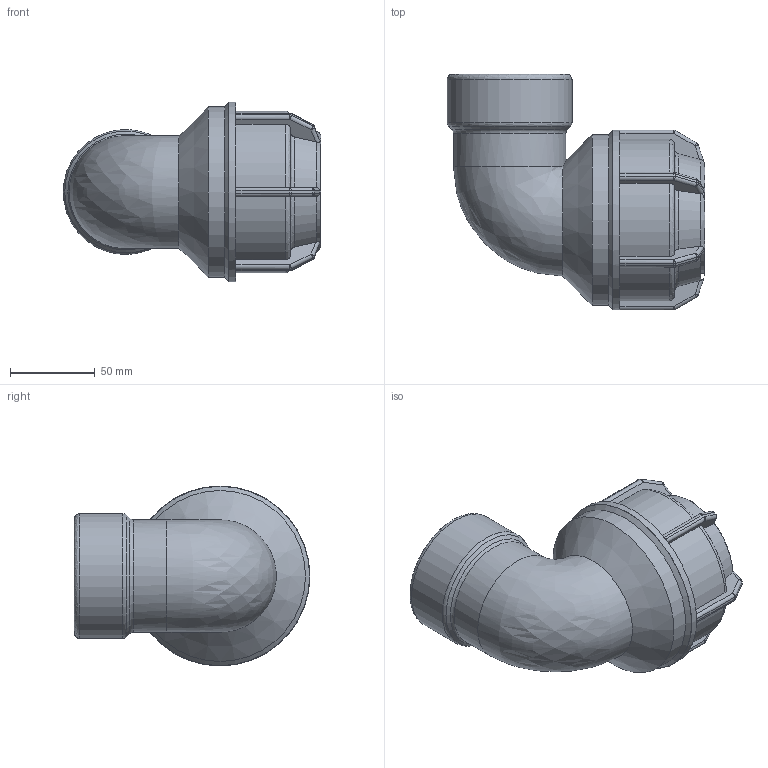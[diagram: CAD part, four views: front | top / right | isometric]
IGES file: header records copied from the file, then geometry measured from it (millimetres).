
Global section: file name: 141500063020.ipt; native system: Autodesk Inventor 2015; preprocessor: unknown; author: KIM; date: 20180409.131204; units: millimetre
Bounding box: 151.83 x 139 x 106 mm (x, y, z)
Volume: 483061.2 mm3; surface area: 92671 mm2
Topology: 1 solids, 1 shells, 215 faces, 521 edges, 305 vertices
Faces by surface type: plane 99, cylinder 59, sphere 24, revolution 23, cone 9, bspline 1
Full cylindrical faces by diameter (mm): 66.288 x1, 73.653 x1, 100.8 x1, 106 x1
